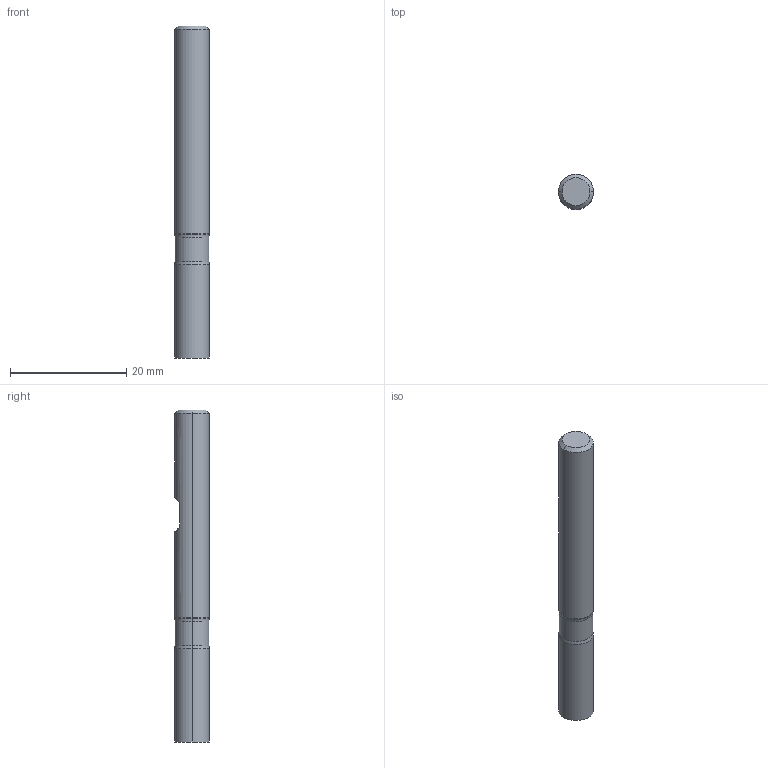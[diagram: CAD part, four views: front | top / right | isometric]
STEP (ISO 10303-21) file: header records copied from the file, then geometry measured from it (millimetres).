
FILE_DESCRIPTION (( 'STEP AP214' ), '1' );
FILE_NAME ('945.060.10_3D-model.step', '2022-02-19T14:16:28', ( '' ), ( '' ), 'SwSTEP 2.0', 'SolidWorks 2020', '' );
FILE_SCHEMA (( 'AUTOMOTIVE_DESIGN' ));
Length unit declared in the file: millimetre
Products named in the file (3): 945.060.10_3D-model; NOCUT-3D^Baugr140; CUT-3D^Baugr140
Assembly tree (2 placements, depth 2):
  945.060.10_3D-model
    CUT-3D^Baugr140
    NOCUT-3D^Baugr140
Bounding box: 6 x 6 x 57 mm (x, y, z)
Volume: 1586.3 mm3; surface area: 1177.5 mm2
Topology: 2 solids, 2 shells, 21 faces, 38 edges, 22 vertices
Faces by surface type: plane 7, cylinder 6, cone 6, torus 2
Entity records: 634 total; most frequent: DIRECTION 114, CARTESIAN_POINT 95, ORIENTED_EDGE 76, AXIS2_PLACEMENT_3D 49, EDGE_CURVE 38, EDGE_LOOP 22, VERTEX_POINT 22, ADVANCED_FACE 21
